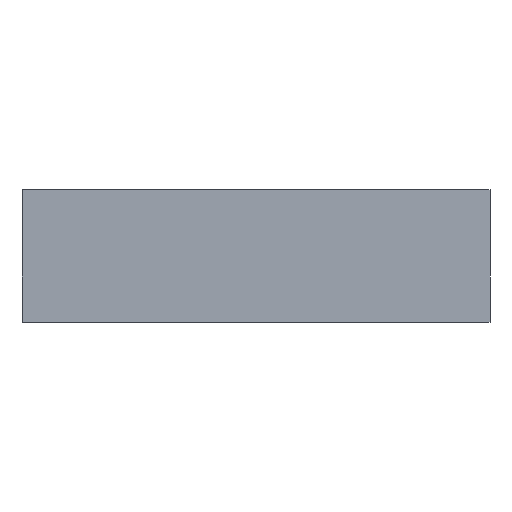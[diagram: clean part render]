
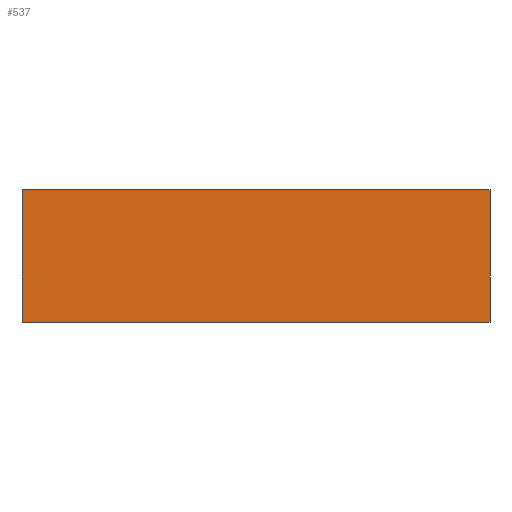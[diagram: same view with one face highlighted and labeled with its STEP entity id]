
A CAD part, top view. The second image highlights one B-rep face of the part: STEP entity #537.
In plain terms, the highlighted planar face has unit normal (0, 0, 1).
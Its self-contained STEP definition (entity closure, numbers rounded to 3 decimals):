
#266=ORIENTED_EDGE('',*,*,#378,.T.);
#267=ORIENTED_EDGE('',*,*,#379,.F.);
#268=ORIENTED_EDGE('',*,*,#374,.F.);
#269=ORIENTED_EDGE('',*,*,#380,.T.);
#310=VECTOR('',#424,1.);
#314=VECTOR('',#430,1.);
#315=VECTOR('',#431,1.);
#316=VECTOR('',#432,1.);
#334=LINE('',#469,#310);
#338=LINE('',#478,#314);
#339=LINE('',#479,#315);
#340=LINE('',#480,#316);
#358=VERTEX_POINT('',#467);
#359=VERTEX_POINT('',#468);
#362=VERTEX_POINT('',#476);
#363=VERTEX_POINT('',#477);
#374=EDGE_CURVE('',#358,#359,#334,.T.);
#378=EDGE_CURVE('',#362,#363,#338,.T.);
#379=EDGE_CURVE('',#359,#363,#339,.T.);
#380=EDGE_CURVE('',#358,#362,#340,.T.);
#399=EDGE_LOOP('',(#266,#267,#268,#269));
#411=FACE_BOUND('',#399,.T.);
#424=DIRECTION('',(-176.87,0.,0.));
#428=DIRECTION('',(0.,0.,1.));
#429=DIRECTION('',(0.,-1.,0.));
#430=DIRECTION('',(-176.87,0.,0.));
#431=DIRECTION('',(0.,50.,0.));
#432=DIRECTION('',(0.,50.,0.));
#467=CARTESIAN_POINT('',(230.368,-25.,0.));
#468=CARTESIAN_POINT('',(53.498,-25.,0.));
#469=CARTESIAN_POINT('',(230.368,-25.,0.));
#475=CARTESIAN_POINT('',(200.,25.,0.));
#476=CARTESIAN_POINT('',(230.368,25.,0.));
#477=CARTESIAN_POINT('',(53.498,25.,0.));
#478=CARTESIAN_POINT('',(230.368,25.,0.));
#479=CARTESIAN_POINT('',(53.498,-25.,0.));
#480=CARTESIAN_POINT('',(230.368,-25.,0.));
#517=AXIS2_PLACEMENT_3D('',#475,#428,#429);
#527=PLANE('',#517);
#537=ADVANCED_FACE('',(#411),#527,.T.);
